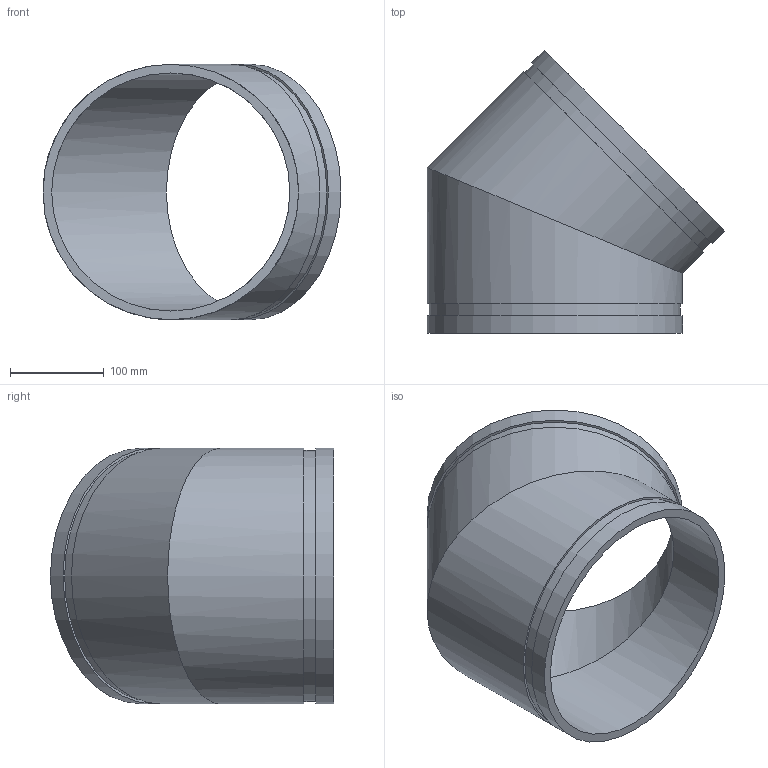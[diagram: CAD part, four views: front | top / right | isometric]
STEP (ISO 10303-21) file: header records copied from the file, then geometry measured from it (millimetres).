
FILE_DESCRIPTION(/* description */ ('VIC 45 DEG FABRICATED ELBOW No 11 SWS (OGS)','CAx-IF Rec.Pracs.---Representation and Presentation of Product Manufacturing Information (PMI)---4.0---2014-10-13'),/* implementation_level */ '2;1');
FILE_NAME(/* name */ 'C:\Users\kkamble\AppData\Roaming\Autodesk\ApplicationPlugins\Back Up\Victaulic_IPS_Elbow 45 Deg_No 11 SWS (OGS)\Victaulic_IPS_Elbow 45 Deg_No 11 SWS (OGS)_10 (250).stp',/* time_stamp */ '2020-09-16T22:14:55+06:00',/* author */ ('cgray'),/* organization */ ('Victaulic'),/* preprocessor_version */ 'ST-DEVELOPER v17.2',/* originating_system */ 'Autodesk Inventor 2019',/* authorisation */ '');
FILE_SCHEMA (('AP242_MANAGED_MODEL_BASED_3D_ENGINEERING_MIM_LF { 1 0 10303 442 1 1 4 }'));
Length unit declared in the file: inch
Products named in the file (1): 11 SWS-10.0
Bounding box: 318.38 x 302.5 x 273.05 mm (x, y, z)
Volume: 1802280.5 mm3; surface area: 423029.3 mm2
Topology: 1 solids, 1 shells, 14 faces, 30 edges, 22 vertices
Faces by surface type: cylinder 8, plane 6
Full cylindrical faces by diameter (mm): 254.508 x2, 268.275 x2, 273.05 x4
Entity records: 554 total; most frequent: DIRECTION 108, CARTESIAN_POINT 84, ORIENTED_EDGE 60, AXIS2_PLACEMENT_3D 50, EDGE_CURVE 30, VERTEX_POINT 22, EDGE_LOOP 20, CIRCLE 16
